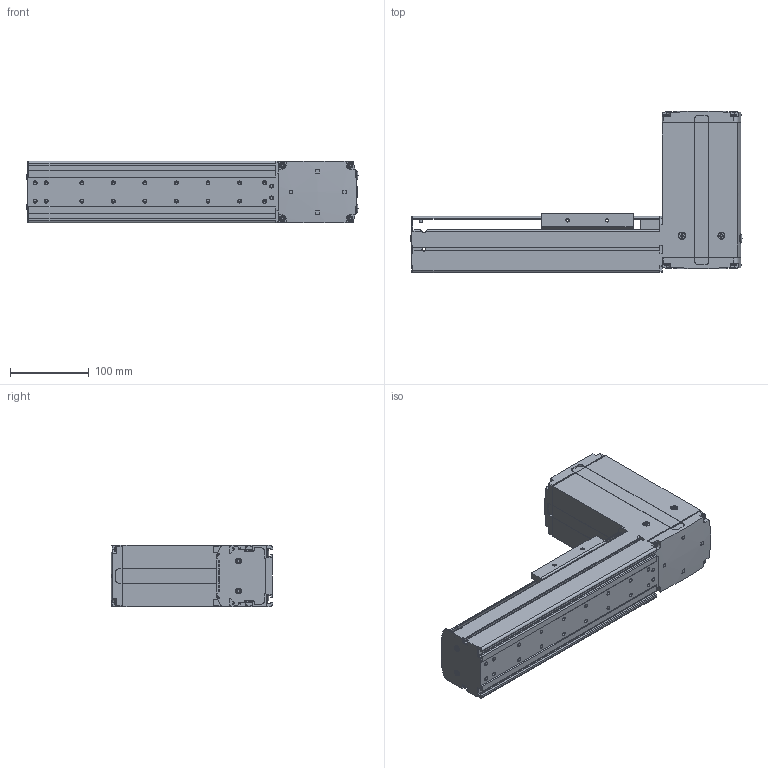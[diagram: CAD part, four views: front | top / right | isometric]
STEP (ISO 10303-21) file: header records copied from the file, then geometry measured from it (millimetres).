
FILE_DESCRIPTION((''),'2;1');
FILE_NAME('BE10_-BT-M_N-10_IGS_PRT','2017-06-18T',(' '),(''),'PRO/ENGINEER BY PARAMETRIC TECHNOLOGY CORPORATION, 2015030','PRO/ENGINEER BY PARAMETRIC TECHNOLOGY CORPORATION, 2015030','');
FILE_SCHEMA(('CONFIG_CONTROL_DESIGN'));
Length unit declared in the file: millimetre
Products named in the file (1): BE10_-BT-M_N-10_IGS_PRT
Bounding box: 420.8 x 205 x 78 mm (x, y, z)
Volume: 751011.7 mm3; surface area: 521903.6 mm2
Topology: 3 solids, 98 shells, 1923 faces, 5239 edges, 3423 vertices
Faces by surface type: plane 958, cylinder 794, cone 111, sphere 30, torus 27, bspline 3
Entity records: 62198 total; most frequent: CARTESIAN_POINT 12688, DIRECTION 10479, ORIENTED_EDGE 10018, EDGE_CURVE 5177, AXIS2_PLACEMENT_3D 3684, VERTEX_POINT 3423, VECTOR 3111, LINE 3111
